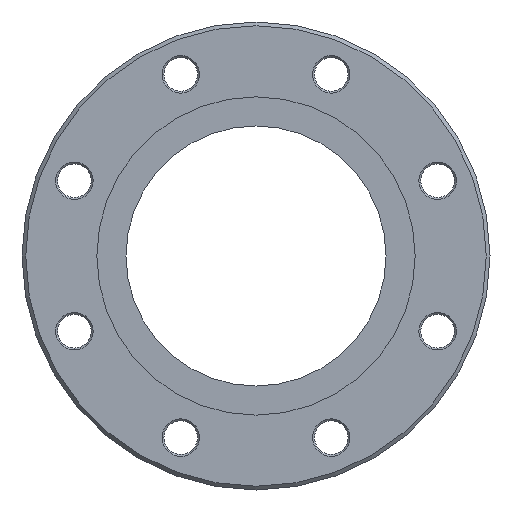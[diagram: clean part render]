
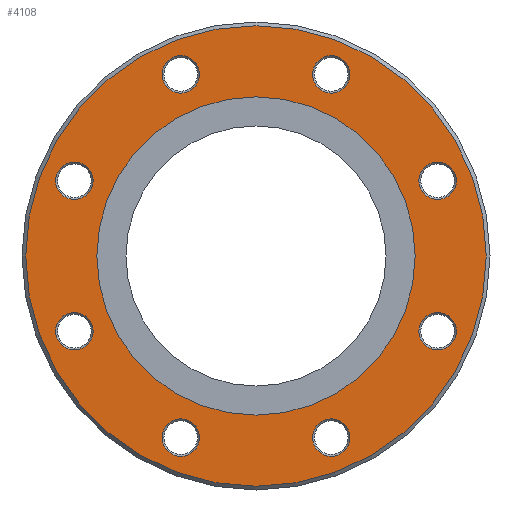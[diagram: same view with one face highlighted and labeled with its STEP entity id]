
A CAD part, left-side view. The second image highlights one B-rep face of the part: STEP entity #4108.
In plain terms, the highlighted planar face has unit normal (-1, 0, 0).
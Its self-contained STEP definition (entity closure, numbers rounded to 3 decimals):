
#34 = ORIENTED_EDGE ( 'NONE', *, *, #274, .T. ) ;
#73 = DIRECTION ( 'NONE',  ( 1., 0., 0. ) ) ;
#171 = VERTEX_POINT ( 'NONE', #947 ) ;
#229 = AXIS2_PLACEMENT_3D ( 'NONE', #3618, #4038, #2038 ) ;
#274 = EDGE_CURVE ( 'NONE', #1587, #1587, #851, .T. ) ;
#289 = FACE_BOUND ( 'NONE', #1244, .T. ) ;
#379 = DIRECTION ( 'NONE',  ( 0., 0., 1. ) ) ;
#391 = CARTESIAN_POINT ( 'NONE',  ( -97.3, -40.182, -97.007 ) ) ;
#429 = AXIS2_PLACEMENT_3D ( 'NONE', #876, #3360, #2204 ) ;
#434 = AXIS2_PLACEMENT_3D ( 'NONE', #4805, #73, #379 ) ;
#478 = FACE_BOUND ( 'NONE', #977, .T. ) ;
#494 = CARTESIAN_POINT ( 'NONE',  ( -97.3, 97.007, 50.182 ) ) ;
#646 = DIRECTION ( 'NONE',  ( 1., 0., 0. ) ) ;
#661 = VERTEX_POINT ( 'NONE', #2277 ) ;
#724 = DIRECTION ( 'NONE',  ( 1., 0., 0. ) ) ;
#748 = ORIENTED_EDGE ( 'NONE', *, *, #1019, .T. ) ;
#757 = DIRECTION ( 'NONE',  ( 0., -1., 0. ) ) ;
#829 = DIRECTION ( 'NONE',  ( -1., 0., 0. ) ) ;
#851 = CIRCLE ( 'NONE', #1022, 10. ) ;
#876 = CARTESIAN_POINT ( 'NONE',  ( -97.3, 0., 0. ) ) ;
#886 = ORIENTED_EDGE ( 'NONE', *, *, #4869, .T. ) ;
#947 = CARTESIAN_POINT ( 'NONE',  ( -97.3, 123., 0. ) ) ;
#977 = EDGE_LOOP ( 'NONE', ( #886 ) ) ;
#985 = CARTESIAN_POINT ( 'NONE',  ( -97.3, 40.182, 97.007 ) ) ;
#1019 = EDGE_CURVE ( 'NONE', #4511, #4511, #4288, .T. ) ;
#1022 = AXIS2_PLACEMENT_3D ( 'NONE', #4940, #1355, #1149 ) ;
#1068 = ORIENTED_EDGE ( 'NONE', *, *, #1315, .T. ) ;
#1149 = DIRECTION ( 'NONE',  ( 0., 0., 1. ) ) ;
#1165 = EDGE_CURVE ( 'NONE', #171, #171, #4949, .T. ) ;
#1232 = CIRCLE ( 'NONE', #4904, 10. ) ;
#1244 = EDGE_LOOP ( 'NONE', ( #1741 ) ) ;
#1315 = EDGE_CURVE ( 'NONE', #3352, #3352, #2959, .T. ) ;
#1355 = DIRECTION ( 'NONE',  ( 1., 0., 0. ) ) ;
#1373 = DIRECTION ( 'NONE',  ( 1., 0., 0. ) ) ;
#1414 = VERTEX_POINT ( 'NONE', #3917 ) ;
#1439 = EDGE_CURVE ( 'NONE', #4930, #4930, #2710, .T. ) ;
#1454 = CARTESIAN_POINT ( 'NONE',  ( -97.3, 97.007, 40.182 ) ) ;
#1526 = EDGE_LOOP ( 'NONE', ( #4322 ) ) ;
#1555 = VERTEX_POINT ( 'NONE', #3174 ) ;
#1587 = VERTEX_POINT ( 'NONE', #2849 ) ;
#1642 = FACE_BOUND ( 'NONE', #4917, .T. ) ;
#1706 = CIRCLE ( 'NONE', #3479, 10. ) ;
#1741 = ORIENTED_EDGE ( 'NONE', *, *, #2301, .T. ) ;
#1818 = CARTESIAN_POINT ( 'NONE',  ( -97.3, -40.182, 107.007 ) ) ;
#1909 = EDGE_LOOP ( 'NONE', ( #34 ) ) ;
#1917 = EDGE_LOOP ( 'NONE', ( #2694 ) ) ;
#2038 = DIRECTION ( 'NONE',  ( 0., 0., -1. ) ) ;
#2041 = DIRECTION ( 'NONE',  ( 1., 0., 0. ) ) ;
#2061 = EDGE_LOOP ( 'NONE', ( #4800 ) ) ;
#2075 = CARTESIAN_POINT ( 'NONE',  ( -97.3, 0., 0. ) ) ;
#2184 = DIRECTION ( 'NONE',  ( 0., -1., 0. ) ) ;
#2190 = VERTEX_POINT ( 'NONE', #3734 ) ;
#2204 = DIRECTION ( 'NONE',  ( 0., 1., 0. ) ) ;
#2277 = CARTESIAN_POINT ( 'NONE',  ( -97.3, -50.182, -97.007 ) ) ;
#2301 = EDGE_CURVE ( 'NONE', #661, #661, #1706, .T. ) ;
#2312 = FACE_BOUND ( 'NONE', #4083, .T. ) ;
#2320 = VERTEX_POINT ( 'NONE', #4690 ) ;
#2375 = AXIS2_PLACEMENT_3D ( 'NONE', #1454, #724, #3823 ) ;
#2386 = FACE_BOUND ( 'NONE', #3915, .T. ) ;
#2588 = DIRECTION ( 'NONE',  ( 0., 0., 1. ) ) ;
#2616 = AXIS2_PLACEMENT_3D ( 'NONE', #4424, #2041, #3647 ) ;
#2652 = CIRCLE ( 'NONE', #3747, 85. ) ;
#2694 = ORIENTED_EDGE ( 'NONE', *, *, #1439, .T. ) ;
#2710 = CIRCLE ( 'NONE', #434, 10. ) ;
#2742 = EDGE_CURVE ( 'NONE', #1555, #1555, #3240, .T. ) ;
#2764 = DIRECTION ( 'NONE',  ( 1., 0., 0. ) ) ;
#2849 = CARTESIAN_POINT ( 'NONE',  ( -97.3, -97.007, 50.182 ) ) ;
#2891 = AXIS2_PLACEMENT_3D ( 'NONE', #3792, #1373, #2588 ) ;
#2959 = CIRCLE ( 'NONE', #2375, 10. ) ;
#3174 = CARTESIAN_POINT ( 'NONE',  ( -97.3, 40.182, -87.007 ) ) ;
#3238 = DIRECTION ( 'NONE',  ( 0., 0., -1. ) ) ;
#3240 = CIRCLE ( 'NONE', #2891, 10. ) ;
#3258 = FACE_BOUND ( 'NONE', #1909, .T. ) ;
#3316 = DIRECTION ( 'NONE',  ( 1., 0., 0. ) ) ;
#3352 = VERTEX_POINT ( 'NONE', #494 ) ;
#3360 = DIRECTION ( 'NONE',  ( 1., 0., 0. ) ) ;
#3479 = AXIS2_PLACEMENT_3D ( 'NONE', #391, #2764, #757 ) ;
#3495 = FACE_BOUND ( 'NONE', #1526, .T. ) ;
#3559 = DIRECTION ( 'NONE',  ( 0., -1., 0. ) ) ;
#3597 = FACE_OUTER_BOUND ( 'NONE', #2061, .T. ) ;
#3618 = CARTESIAN_POINT ( 'NONE',  ( -97.3, 0., 0. ) ) ;
#3647 = DIRECTION ( 'NONE',  ( 0., 0., 1. ) ) ;
#3734 = CARTESIAN_POINT ( 'NONE',  ( -97.3, 0., -85. ) ) ;
#3747 = AXIS2_PLACEMENT_3D ( 'NONE', #2075, #829, #3238 ) ;
#3787 = EDGE_CURVE ( 'NONE', #2190, #2190, #2652, .T. ) ;
#3792 = CARTESIAN_POINT ( 'NONE',  ( -97.3, 40.182, -97.007 ) ) ;
#3823 = DIRECTION ( 'NONE',  ( 0., 0., 1. ) ) ;
#3836 = ORIENTED_EDGE ( 'NONE', *, *, #2742, .T. ) ;
#3915 = EDGE_LOOP ( 'NONE', ( #4968 ) ) ;
#3917 = CARTESIAN_POINT ( 'NONE',  ( -97.3, 30.182, 97.007 ) ) ;
#4038 = DIRECTION ( 'NONE',  ( 1., 0., 0. ) ) ;
#4062 = PLANE ( 'NONE',  #229 ) ;
#4083 = EDGE_LOOP ( 'NONE', ( #1068 ) ) ;
#4108 = ADVANCED_FACE ( 'NONE', ( #289, #5048, #3495, #2312, #1642, #478, #4369, #3258, #2386, #3597 ), #4062, .F. ) ;
#4117 = CARTESIAN_POINT ( 'NONE',  ( -97.3, 97.007, -40.182 ) ) ;
#4288 = CIRCLE ( 'NONE', #2616, 10. ) ;
#4322 = ORIENTED_EDGE ( 'NONE', *, *, #4723, .T. ) ;
#4369 = FACE_BOUND ( 'NONE', #1917, .T. ) ;
#4424 = CARTESIAN_POINT ( 'NONE',  ( -97.3, -97.007, -40.182 ) ) ;
#4497 = AXIS2_PLACEMENT_3D ( 'NONE', #985, #646, #2184 ) ;
#4511 = VERTEX_POINT ( 'NONE', #4562 ) ;
#4562 = CARTESIAN_POINT ( 'NONE',  ( -97.3, -97.007, -30.182 ) ) ;
#4666 = CIRCLE ( 'NONE', #4497, 10. ) ;
#4690 = CARTESIAN_POINT ( 'NONE',  ( -97.3, 87.007, -40.182 ) ) ;
#4723 = EDGE_CURVE ( 'NONE', #2320, #2320, #1232, .T. ) ;
#4785 = EDGE_LOOP ( 'NONE', ( #3836 ) ) ;
#4800 = ORIENTED_EDGE ( 'NONE', *, *, #1165, .F. ) ;
#4805 = CARTESIAN_POINT ( 'NONE',  ( -97.3, -40.182, 97.007 ) ) ;
#4869 = EDGE_CURVE ( 'NONE', #1414, #1414, #4666, .T. ) ;
#4904 = AXIS2_PLACEMENT_3D ( 'NONE', #4117, #3316, #3559 ) ;
#4917 = EDGE_LOOP ( 'NONE', ( #748 ) ) ;
#4930 = VERTEX_POINT ( 'NONE', #1818 ) ;
#4940 = CARTESIAN_POINT ( 'NONE',  ( -97.3, -97.007, 40.182 ) ) ;
#4949 = CIRCLE ( 'NONE', #429, 123. ) ;
#4968 = ORIENTED_EDGE ( 'NONE', *, *, #3787, .F. ) ;
#5048 = FACE_BOUND ( 'NONE', #4785, .T. ) ;
